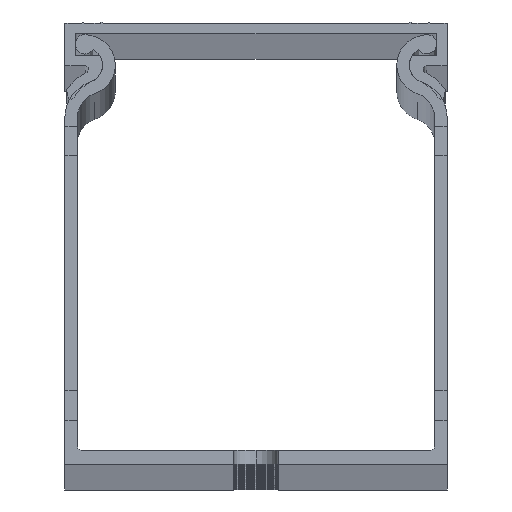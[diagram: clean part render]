
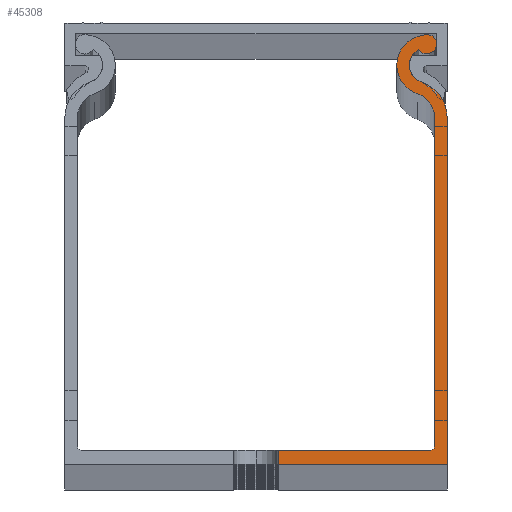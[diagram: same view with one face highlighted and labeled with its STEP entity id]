
A CAD part, top view. The second image highlights one B-rep face of the part: STEP entity #45308.
In plain terms, the highlighted planar face has unit normal (0, 0, 1).
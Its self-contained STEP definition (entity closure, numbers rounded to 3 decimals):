
#89 = ORIENTED_EDGE ( 'NONE', *, *, #3936, .T. ) ;
#241 = VECTOR ( 'NONE', #33159, 1000. ) ;
#376 = CARTESIAN_POINT ( 'NONE',  ( 2571.407, 1284.233, 2000. ) ) ;
#920 = CARTESIAN_POINT ( 'NONE',  ( 2594.407, 1237.056, 2000. ) ) ;
#1053 = EDGE_LOOP ( 'NONE', ( #22847, #43746, #10012, #32823, #12401, #36858, #3236, #42982, #39063, #20888, #89, #49381, #9871 ) ) ;
#1238 = EDGE_CURVE ( 'NONE', #22346, #25585, #8217, .T. ) ;
#3131 = CARTESIAN_POINT ( 'NONE',  ( 2592.707, 1239.456, 2000. ) ) ;
#3236 = ORIENTED_EDGE ( 'NONE', *, *, #6166, .T. ) ;
#3657 = CARTESIAN_POINT ( 'NONE',  ( 2568.407, 1237.056, 2000. ) ) ;
#3936 = EDGE_CURVE ( 'NONE', #25585, #40816, #22969, .T. ) ;
#4315 = VECTOR ( 'NONE', #21454, 1000. ) ;
#4960 = CARTESIAN_POINT ( 'NONE',  ( 2589.307, 1284.233, 2000. ) ) ;
#5090 = CARTESIAN_POINT ( 'NONE',  ( 2594.407, 1237.056, 2000. ) ) ;
#6120 = CIRCLE ( 'NONE', #10600, 4.1 ) ;
#6166 = EDGE_CURVE ( 'NONE', #34629, #44568, #9894, .T. ) ;
#7301 = PLANE ( 'NONE',  #30901 ) ;
#7416 = AXIS2_PLACEMENT_3D ( 'NONE', #9886, #14195, #14368 ) ;
#7588 = DIRECTION ( 'NONE',  ( -1., 0., 0. ) ) ;
#7622 = DIRECTION ( 'NONE',  ( 0., 0., 1. ) ) ;
#8217 = CIRCLE ( 'NONE', #18200, 3.4 ) ;
#9871 = ORIENTED_EDGE ( 'NONE', *, *, #30495, .T. ) ;
#9886 = CARTESIAN_POINT ( 'NONE',  ( 2592.207, 1239.456, 2000. ) ) ;
#9894 = CIRCLE ( 'NONE', #36687, 1.35 ) ;
#10012 = ORIENTED_EDGE ( 'NONE', *, *, #27138, .T. ) ;
#10600 = AXIS2_PLACEMENT_3D ( 'NONE', #26903, #50858, #26721 ) ;
#10614 = CIRCLE ( 'NONE', #7416, 0.5 ) ;
#10904 = CIRCLE ( 'NONE', #27795, 2.4 ) ;
#11970 = CARTESIAN_POINT ( 'NONE',  ( 2547.507, 1284.233, 2000. ) ) ;
#12401 = ORIENTED_EDGE ( 'NONE', *, *, #26601, .T. ) ;
#13632 = VECTOR ( 'NONE', #7588, 1000. ) ;
#14195 = DIRECTION ( 'NONE',  ( 0., 0., -1. ) ) ;
#14356 = CARTESIAN_POINT ( 'NONE',  ( 2590.904, 1289.077, 2000. ) ) ;
#14368 = DIRECTION ( 'NONE',  ( 1., 0., 0. ) ) ;
#15324 = CARTESIAN_POINT ( 'NONE',  ( 2592.707, 1284.203, 2000. ) ) ;
#15848 = CARTESIAN_POINT ( 'NONE',  ( 2568.407, 1238.956, 2000. ) ) ;
#16687 = DIRECTION ( 'NONE',  ( 0., 0., 1. ) ) ;
#16851 = CARTESIAN_POINT ( 'NONE',  ( 2591.657, 1294.213, 2000. ) ) ;
#17225 = VECTOR ( 'NONE', #44138, 1000. ) ;
#17496 = LINE ( 'NONE', #15848, #13632 ) ;
#17552 = DIRECTION ( 'NONE',  ( 0., 0., -1. ) ) ;
#18200 = AXIS2_PLACEMENT_3D ( 'NONE', #4960, #17552, #29828 ) ;
#18239 = VERTEX_POINT ( 'NONE', #14356 ) ;
#19194 = CARTESIAN_POINT ( 'NONE',  ( 2571.407, 1238.956, 2000. ) ) ;
#19731 = VERTEX_POINT ( 'NONE', #29900 ) ;
#19745 = VERTEX_POINT ( 'NONE', #920 ) ;
#20018 = DIRECTION ( 'NONE',  ( 1., 0., 0. ) ) ;
#20099 = CARTESIAN_POINT ( 'NONE',  ( 2571.407, 1237.056, 2000. ) ) ;
#20795 = DIRECTION ( 'NONE',  ( 1., 0., 0. ) ) ;
#20888 = ORIENTED_EDGE ( 'NONE', *, *, #1238, .T. ) ;
#21454 = DIRECTION ( 'NONE',  ( 0., 1., 0. ) ) ;
#22128 = VERTEX_POINT ( 'NONE', #19194 ) ;
#22346 = VERTEX_POINT ( 'NONE', #29841 ) ;
#22847 = ORIENTED_EDGE ( 'NONE', *, *, #23888, .F. ) ;
#22969 = LINE ( 'NONE', #15324, #17225 ) ;
#23816 = CARTESIAN_POINT ( 'NONE',  ( 2587.555, 1291.356, 2000. ) ) ;
#23888 = EDGE_CURVE ( 'NONE', #33877, #22128, #43374, .T. ) ;
#25047 = CARTESIAN_POINT ( 'NONE',  ( 2589.255, 1291.356, 2000. ) ) ;
#25158 = EDGE_CURVE ( 'NONE', #33877, #19745, #29190, .T. ) ;
#25585 = VERTEX_POINT ( 'NONE', #51145 ) ;
#26601 = EDGE_CURVE ( 'NONE', #18239, #49553, #10904, .T. ) ;
#26638 = CIRCLE ( 'NONE', #27873, 5.1 ) ;
#26721 = DIRECTION ( 'NONE',  ( 1., 0., 0. ) ) ;
#26903 = CARTESIAN_POINT ( 'NONE',  ( 2591.655, 1291.356, 2000. ) ) ;
#27138 = EDGE_CURVE ( 'NONE', #19745, #19731, #38485, .T. ) ;
#27705 = AXIS2_PLACEMENT_3D ( 'NONE', #34143, #38269, #50672 ) ;
#27795 = AXIS2_PLACEMENT_3D ( 'NONE', #31109, #43308, #34881 ) ;
#27840 = CARTESIAN_POINT ( 'NONE',  ( 2589.307, 1284.233, 2000. ) ) ;
#27873 = AXIS2_PLACEMENT_3D ( 'NONE', #27840, #53247, #36156 ) ;
#27949 = CIRCLE ( 'NONE', #27705, 2.4 ) ;
#28369 = EDGE_CURVE ( 'NONE', #44568, #48941, #6120, .T. ) ;
#28647 = EDGE_CURVE ( 'NONE', #48941, #22346, #38888, .T. ) ;
#29057 = EDGE_CURVE ( 'NONE', #19731, #18239, #26638, .T. ) ;
#29190 = LINE ( 'NONE', #3657, #49770 ) ;
#29828 = DIRECTION ( 'NONE',  ( 1., 0., 0. ) ) ;
#29841 = CARTESIAN_POINT ( 'NONE',  ( 2590.372, 1287.462, 2000. ) ) ;
#29900 = CARTESIAN_POINT ( 'NONE',  ( 2594.407, 1284.196, 2000. ) ) ;
#30495 = EDGE_CURVE ( 'NONE', #49033, #22128, #17496, .T. ) ;
#30901 = AXIS2_PLACEMENT_3D ( 'NONE', #11970, #37194, #40783 ) ;
#31109 = CARTESIAN_POINT ( 'NONE',  ( 2591.655, 1291.356, 2000. ) ) ;
#32016 = AXIS2_PLACEMENT_3D ( 'NONE', #44712, #7622, #40222 ) ;
#32823 = ORIENTED_EDGE ( 'NONE', *, *, #29057, .T. ) ;
#33159 = DIRECTION ( 'NONE',  ( 0., 1., 0. ) ) ;
#33877 = VERTEX_POINT ( 'NONE', #20099 ) ;
#34143 = CARTESIAN_POINT ( 'NONE',  ( 2591.655, 1291.356, 2000. ) ) ;
#34629 = VERTEX_POINT ( 'NONE', #37173 ) ;
#34881 = DIRECTION ( 'NONE',  ( 1., 0., 0. ) ) ;
#36156 = DIRECTION ( 'NONE',  ( 1., 0., 0. ) ) ;
#36687 = AXIS2_PLACEMENT_3D ( 'NONE', #16851, #16687, #20795 ) ;
#36858 = ORIENTED_EDGE ( 'NONE', *, *, #42214, .T. ) ;
#37173 = CARTESIAN_POINT ( 'NONE',  ( 2590.527, 1293.474, 2000. ) ) ;
#37189 = CARTESIAN_POINT ( 'NONE',  ( 2592.207, 1238.956, 2000. ) ) ;
#37194 = DIRECTION ( 'NONE',  ( 0., 0., 1. ) ) ;
#38269 = DIRECTION ( 'NONE',  ( 0., 0., -1. ) ) ;
#38485 = LINE ( 'NONE', #5090, #4315 ) ;
#38888 = CIRCLE ( 'NONE', #32016, 4.1 ) ;
#39063 = ORIENTED_EDGE ( 'NONE', *, *, #28647, .T. ) ;
#40222 = DIRECTION ( 'NONE',  ( 1., 0., 0. ) ) ;
#40783 = DIRECTION ( 'NONE',  ( 1., 0., 0. ) ) ;
#40816 = VERTEX_POINT ( 'NONE', #3131 ) ;
#42214 = EDGE_CURVE ( 'NONE', #49553, #34629, #27949, .T. ) ;
#42982 = ORIENTED_EDGE ( 'NONE', *, *, #28369, .T. ) ;
#43308 = DIRECTION ( 'NONE',  ( 0., 0., -1. ) ) ;
#43374 = LINE ( 'NONE', #376, #241 ) ;
#43746 = ORIENTED_EDGE ( 'NONE', *, *, #25158, .T. ) ;
#44138 = DIRECTION ( 'NONE',  ( 0., -1., 0. ) ) ;
#44568 = VERTEX_POINT ( 'NONE', #50922 ) ;
#44712 = CARTESIAN_POINT ( 'NONE',  ( 2591.655, 1291.356, 2000. ) ) ;
#45308 = ADVANCED_FACE ( 'NONE', ( #50144 ), #7301, .T. ) ;
#46513 = EDGE_CURVE ( 'NONE', #40816, #49033, #10614, .T. ) ;
#48941 = VERTEX_POINT ( 'NONE', #23816 ) ;
#49033 = VERTEX_POINT ( 'NONE', #37189 ) ;
#49381 = ORIENTED_EDGE ( 'NONE', *, *, #46513, .T. ) ;
#49553 = VERTEX_POINT ( 'NONE', #25047 ) ;
#49770 = VECTOR ( 'NONE', #20018, 1000. ) ;
#50144 = FACE_OUTER_BOUND ( 'NONE', #1053, .T. ) ;
#50672 = DIRECTION ( 'NONE',  ( 1., 0., 0. ) ) ;
#50858 = DIRECTION ( 'NONE',  ( 0., 0., 1. ) ) ;
#50922 = CARTESIAN_POINT ( 'NONE',  ( 2591.029, 1295.408, 2000. ) ) ;
#51145 = CARTESIAN_POINT ( 'NONE',  ( 2592.707, 1284.203, 2000. ) ) ;
#53247 = DIRECTION ( 'NONE',  ( 0., 0., 1. ) ) ;
